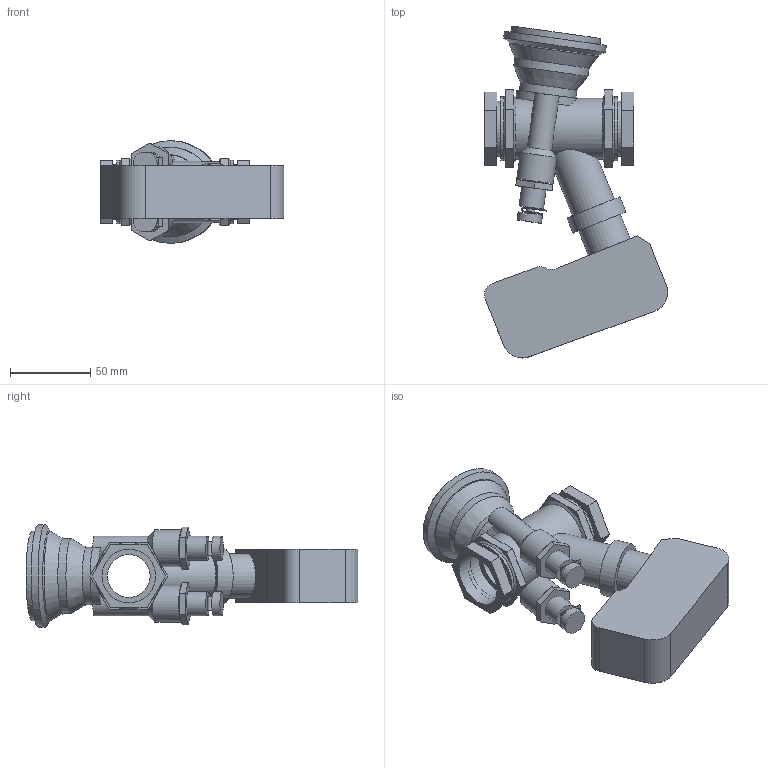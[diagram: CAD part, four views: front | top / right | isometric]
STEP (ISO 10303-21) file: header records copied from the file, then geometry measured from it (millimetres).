
FILE_DESCRIPTION(/* description */ ('VIC BALANCING AND CONTROL VALVE SERIES 7CP (FPT)-TA SLIDER 160 PLUS','CAx-IF Rec.Pracs.---Representation and Presentation of Product Manufacturing Information (PMI)---4.0---2014-10-13'),/* implementation_level */ '2;1');
FILE_NAME(/* name */ 'C:\Users\Vjadhav\AppData\Roaming\Autodesk\ApplicationPlugins\Victaulic.Temp\A633\Victaulic_IPS_Valve Balancing Pressure Independent_TA Series 7CP (FPT)_Slider 160 Plus_1 (25).stp',/* time_stamp */ '2021-09-14T20:04:02+06:00',/* author */ ('Vjadhav'),/* organization */ ('Victaulic'),/* preprocessor_version */ 'ST-DEVELOPER v17.2',/* originating_system */ 'Autodesk Inventor 2019',/* authorisation */ '');
FILE_SCHEMA (('AP242_MANAGED_MODEL_BASED_3D_ENGINEERING_MIM_LF { 1 0 10303 442 1 1 4 }'));
Length unit declared in the file: inch
Products named in the file (2): 7CP_Slider 160 Plus-01.0; 7CP-01.0
Assembly tree (1 placements, depth 2):
  7CP_Slider 160 Plus-01.0
    7CP-01.0
Bounding box: 114.1 x 206.76 x 64.01 mm (x, y, z)
Volume: 353418.3 mm3; surface area: 70651.1 mm2
Topology: 1 solids, 1 shells, 171 faces, 429 edges, 286 vertices
Faces by surface type: plane 118, cylinder 44, cone 9
Full cylindrical faces by diameter (mm): 5.08 x6, 15.24 x6, 22.86 x2, 26.645 x2, 27.94 x2, 33.401 x3, 34.29 x2, 35.352 x1, 35.56 x1, 38.1 x1, 39.624 x2, 46.609 x1, 55.88 x2, 64.008 x1
Entity records: 5667 total; most frequent: CARTESIAN_POINT 1120, DIRECTION 930, ORIENTED_EDGE 858, EDGE_CURVE 429, AXIS2_PLACEMENT_3D 344, VERTEX_POINT 286, LINE 242, VECTOR 242
